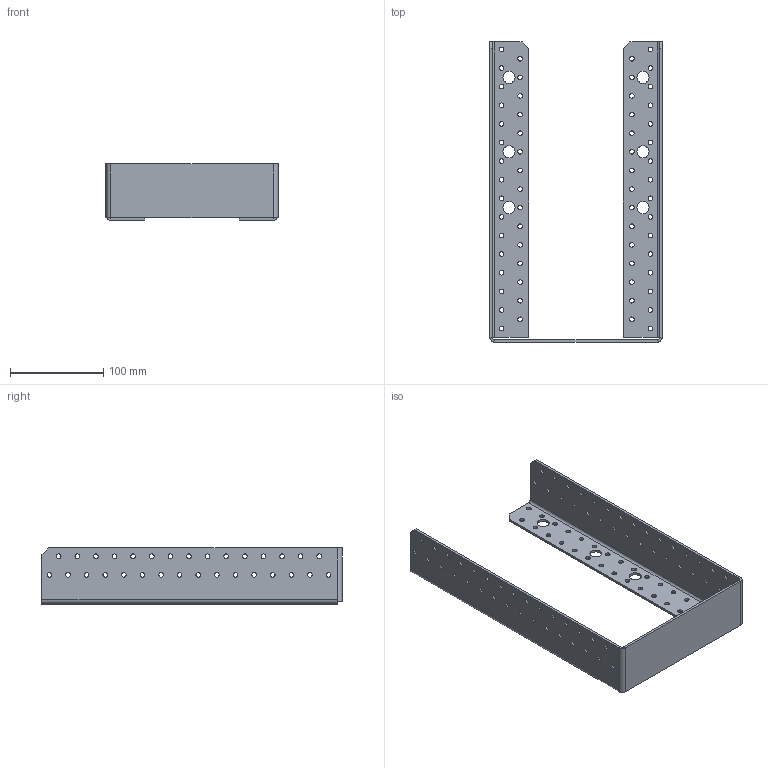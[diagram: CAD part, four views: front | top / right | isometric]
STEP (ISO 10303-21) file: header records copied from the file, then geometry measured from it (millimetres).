
FILE_DESCRIPTION (( 'STEP AP203' ), '1' );
FILE_NAME ('40555IKO.STEP', '2021-04-16T09:55:37', ( '' ), ( '' ), 'SwSTEP 2.0', 'SolidWorks 2013', '' );
FILE_SCHEMA (( 'CONFIG_CONTROL_DESIGN' ));
Length unit declared in the file: millimetre
Products named in the file (1): 40555IKO
Bounding box: 185 x 322.5 x 60.5 mm (x, y, z)
Volume: 174161.6 mm3; surface area: 149570.3 mm2
Topology: 1 solids, 1 shells, 304 faces, 876 edges, 574 vertices
Faces by surface type: cylinder 268, plane 36
Entity records: 10855 total; most frequent: DIRECTION 2024, CARTESIAN_POINT 1755, ORIENTED_EDGE 1752, EDGE_CURVE 876, AXIS2_PLACEMENT_3D 843, VERTEX_POINT 574, EDGE_LOOP 564, CIRCLE 538
